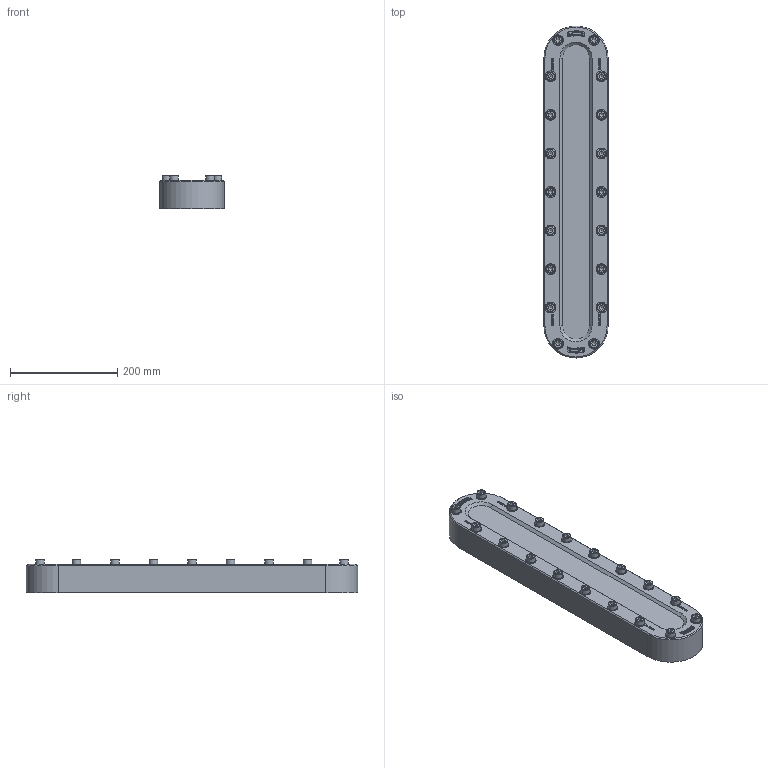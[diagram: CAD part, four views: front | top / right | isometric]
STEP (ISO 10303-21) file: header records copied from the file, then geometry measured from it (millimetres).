
FILE_DESCRIPTION(/* description */ (''),/* implementation_level */ '2;1');
FILE_NAME(/* name */ 'W:\Konstruktion_ACI\338\_STEP\338-620.stp',/* time_stamp */ '2022-03-11T14:36:57+01:00',/* author */ ('koslowksi'),/* organization */ (''),/* preprocessor_version */ 'ST-DEVELOPER v16.1',/* originating_system */ 'Autodesk Inventor 2016',/* authorisation */ '');
FILE_SCHEMA (('AUTOMOTIVE_DESIGN { 1 0 10303 214 3 1 1 }'));
Length unit declared in the file: millimetre
Products named in the file (1): 338-620
Bounding box: 120 x 620 x 62.9 mm (x, y, z)
Volume: 3090207.6 mm3; surface area: 253415.7 mm2
Topology: 1 solids, 1 shells, 1508 faces, 4053 edges, 2689 vertices
Faces by surface type: plane 990, bspline 438, cylinder 40, cone 22, torus 18
Full cylindrical faces by diameter (mm): 16 x18, 20 x18
Entity records: 49760 total; most frequent: CARTESIAN_POINT 14053, ORIENTED_EDGE 7926, DIRECTION 5225, EDGE_CURVE 3963, LINE 2875, VECTOR 2875, VERTEX_POINT 2671, EDGE_LOOP 1722
